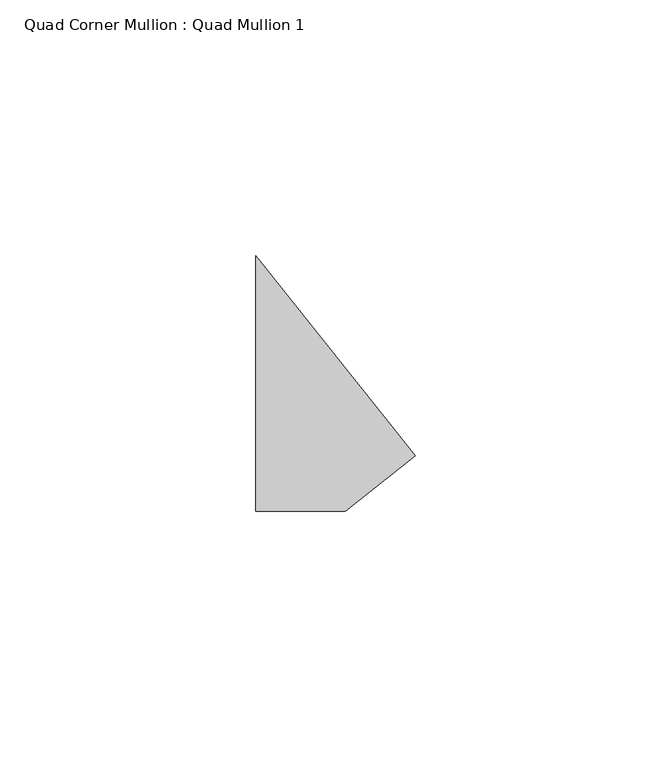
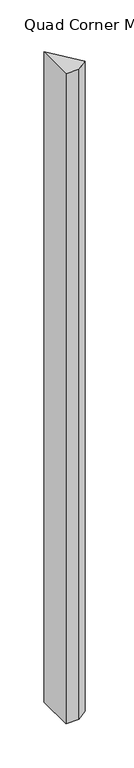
"""IFC4 building model written with IfcOpenShell, lengths in millimetres: member geometry, Quad Corner Mullion : Quad Mullion 1."""

from ifc_helpers import new_model, si_unit, frame, origin, place, context, project, spatial, polyline, outline, extrude, source, transform, mapped, element, save


def quad_corner_mullion_quad_mullion_1_7f5397fa(model_context):
    return source(origin(), model_context, "Body", "SweptSolid", [
        extrude(outline(polyline([(22.4169637, -14.1035695), (8.7424787, -25.0), (-8.7424787, -25.0), (-8.7424787, 25.0), (22.4169637, -14.1035695)])), frame((0.0, 0.0, -900.0), z_axis=(0.0, 0.0, 1.0), x_axis=(1.0, 0.0, 0.0)), (0.0, 0.0, 1.0), 900.0),
    ])


if __name__ == "__main__":
    model = new_model("IFC4")
    model_context = context("Model", 3, world=origin())
    ifc_project = project(units=[si_unit("LENGTHUNIT", "METRE", prefix="MILLI")], contexts=[model_context])
    site = spatial("IfcSite", under=ifc_project)
    building = spatial("IfcBuilding", under=site)
    placement = place(None, origin())
    quad_corner_mullion_quad_mullion_1_shape = quad_corner_mullion_quad_mullion_1_7f5397fa(model_context)
    element("IfcMember", 1, ObjectType="Quad Corner Mullion : Quad Mullion 1", at=placement, inside=building, context=model_context, shape_type="MappedRepresentation", body=[
        mapped(quad_corner_mullion_quad_mullion_1_shape, transform((0.0, 0.0, 0.0), x_axis=(1.0, 0.0, 0.0), y_axis=(0.0, 1.0, 0.0), z_axis=(0.0, 0.0, 1.0))),
    ])
    save(model, "model.ifc")
